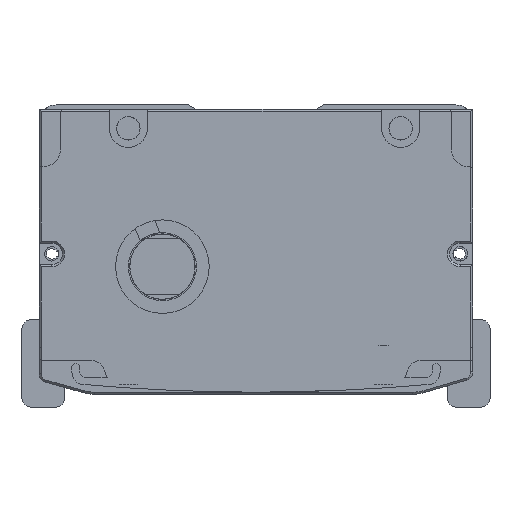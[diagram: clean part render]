
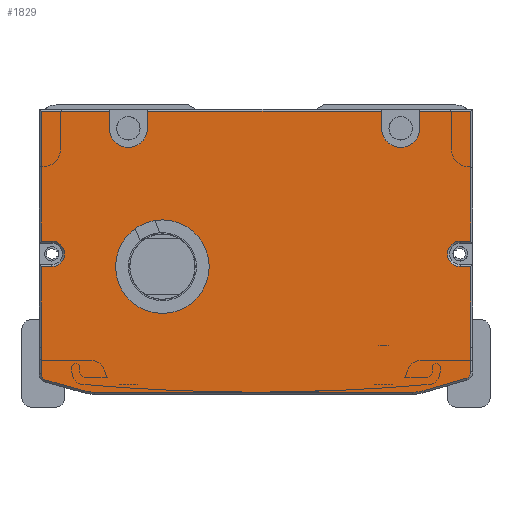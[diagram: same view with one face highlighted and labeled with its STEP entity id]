
A CAD part, front view. The second image highlights one B-rep face of the part: STEP entity #1829.
In plain terms, the highlighted planar face has unit normal (0, -1, 0).
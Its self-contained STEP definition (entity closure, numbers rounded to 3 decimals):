
#1066=FACE_BOUND('',#3755,.T.);
#1067=FACE_BOUND('',#3756,.T.);
#1829=ADVANCED_FACE('',(#1066,#1067),#2572,.F.);
#2572=PLANE('',#15094);
#3755=EDGE_LOOP('',(#6793));
#3756=EDGE_LOOP('',(#6794,#6795,#6796,#6797,#6798,#6799,#6800,#6801,#6802,
#6803,#6804,#6805,#6806,#6807,#6808,#6809,#6810,#6811,#6812,#6813,#6814,
#6815,#6816,#6817,#6818,#6819,#6820,#6821));
#4833=CIRCLE('',#15005,3.);
#4836=CIRCLE('',#15013,3.);
#4839=CIRCLE('',#15025,1.5);
#4841=CIRCLE('',#15029,9.5);
#4843=CIRCLE('',#15033,9.5);
#4845=CIRCLE('',#15037,1.5);
#4850=CIRCLE('',#15052,4.5);
#4854=CIRCLE('',#15058,4.5);
#4855=CIRCLE('',#15067,11.);
#6793=ORIENTED_EDGE('',*,*,#11464,.F.);
#6794=ORIENTED_EDGE('',*,*,#11358,.T.);
#6795=ORIENTED_EDGE('',*,*,#11254,.T.);
#6796=ORIENTED_EDGE('',*,*,#11445,.T.);
#6797=ORIENTED_EDGE('',*,*,#11258,.T.);
#6798=ORIENTED_EDGE('',*,*,#11493,.T.);
#6799=ORIENTED_EDGE('',*,*,#11264,.T.);
#6800=ORIENTED_EDGE('',*,*,#11441,.T.);
#6801=ORIENTED_EDGE('',*,*,#11268,.T.);
#6802=ORIENTED_EDGE('',*,*,#11494,.T.);
#6803=ORIENTED_EDGE('',*,*,#11362,.T.);
#6804=ORIENTED_EDGE('',*,*,#11368,.T.);
#6805=ORIENTED_EDGE('',*,*,#11371,.T.);
#6806=ORIENTED_EDGE('',*,*,#11374,.T.);
#6807=ORIENTED_EDGE('',*,*,#11376,.T.);
#6808=ORIENTED_EDGE('',*,*,#11406,.T.);
#6809=ORIENTED_EDGE('',*,*,#11410,.T.);
#6810=ORIENTED_EDGE('',*,*,#11413,.T.);
#6811=ORIENTED_EDGE('',*,*,#11416,.T.);
#6812=ORIENTED_EDGE('',*,*,#11419,.T.);
#6813=ORIENTED_EDGE('',*,*,#11422,.T.);
#6814=ORIENTED_EDGE('',*,*,#11425,.T.);
#6815=ORIENTED_EDGE('',*,*,#11427,.T.);
#6816=ORIENTED_EDGE('',*,*,#11404,.T.);
#6817=ORIENTED_EDGE('',*,*,#11394,.T.);
#6818=ORIENTED_EDGE('',*,*,#11391,.T.);
#6819=ORIENTED_EDGE('',*,*,#11388,.T.);
#6820=ORIENTED_EDGE('',*,*,#11385,.T.);
#6821=ORIENTED_EDGE('',*,*,#11380,.T.);
#9735=VERTEX_POINT('',#22311);
#9736=VERTEX_POINT('',#22313);
#9739=VERTEX_POINT('',#22320);
#9740=VERTEX_POINT('',#22322);
#9745=VERTEX_POINT('',#22333);
#9746=VERTEX_POINT('',#22335);
#9749=VERTEX_POINT('',#22342);
#9750=VERTEX_POINT('',#22344);
#9808=VERTEX_POINT('',#22530);
#9811=VERTEX_POINT('',#22538);
#9812=VERTEX_POINT('',#22539);
#9817=VERTEX_POINT('',#22550);
#9819=VERTEX_POINT('',#22556);
#9820=VERTEX_POINT('',#22561);
#9822=VERTEX_POINT('',#22567);
#9825=VERTEX_POINT('',#22575);
#9827=VERTEX_POINT('',#22581);
#9829=VERTEX_POINT('',#22587);
#9831=VERTEX_POINT('',#22593);
#9833=VERTEX_POINT('',#22599);
#9840=VERTEX_POINT('',#22623);
#9841=VERTEX_POINT('',#22627);
#9844=VERTEX_POINT('',#22634);
#9846=VERTEX_POINT('',#22640);
#9848=VERTEX_POINT('',#22646);
#9850=VERTEX_POINT('',#22652);
#9852=VERTEX_POINT('',#22658);
#9854=VERTEX_POINT('',#22664);
#9866=VERTEX_POINT('',#22737);
#11254=EDGE_CURVE('',#9736,#9735,#12935,.T.);
#11258=EDGE_CURVE('',#9740,#9739,#12939,.T.);
#11264=EDGE_CURVE('',#9746,#9745,#12945,.T.);
#11268=EDGE_CURVE('',#9750,#9749,#12949,.T.);
#11358=EDGE_CURVE('',#9808,#9736,#13022,.T.);
#11362=EDGE_CURVE('',#9811,#9812,#13026,.T.);
#11368=EDGE_CURVE('',#9812,#9817,#13032,.T.);
#11371=EDGE_CURVE('',#9817,#9819,#4833,.T.);
#11374=EDGE_CURVE('',#9819,#9820,#13036,.T.);
#11376=EDGE_CURVE('',#9820,#9822,#13038,.T.);
#11380=EDGE_CURVE('',#9825,#9808,#13042,.T.);
#11385=EDGE_CURVE('',#9827,#9825,#13047,.T.);
#11388=EDGE_CURVE('',#9829,#9827,#4836,.T.);
#11391=EDGE_CURVE('',#9831,#9829,#13051,.T.);
#11394=EDGE_CURVE('',#9833,#9831,#13054,.T.);
#11404=EDGE_CURVE('',#9840,#9833,#13062,.T.);
#11406=EDGE_CURVE('',#9822,#9841,#13064,.T.);
#11410=EDGE_CURVE('',#9841,#9844,#4839,.T.);
#11413=EDGE_CURVE('',#9844,#9846,#13069,.T.);
#11416=EDGE_CURVE('',#9846,#9848,#4841,.T.);
#11419=EDGE_CURVE('',#9848,#9850,#13073,.T.);
#11422=EDGE_CURVE('',#9850,#9852,#4843,.T.);
#11425=EDGE_CURVE('',#9852,#9854,#13077,.T.);
#11427=EDGE_CURVE('',#9854,#9840,#4845,.T.);
#11441=EDGE_CURVE('',#9745,#9750,#4850,.T.);
#11445=EDGE_CURVE('',#9735,#9740,#4854,.T.);
#11464=EDGE_CURVE('',#9866,#9866,#4855,.T.);
#11493=EDGE_CURVE('',#9739,#9746,#13128,.T.);
#11494=EDGE_CURVE('',#9749,#9811,#13129,.T.);
#12935=LINE('',#22312,#13881);
#12939=LINE('',#22321,#13885);
#12945=LINE('',#22334,#13891);
#12949=LINE('',#22343,#13895);
#13022=LINE('',#22529,#13968);
#13026=LINE('',#22537,#13972);
#13032=LINE('',#22551,#13978);
#13036=LINE('',#22563,#13982);
#13038=LINE('',#22566,#13984);
#13042=LINE('',#22574,#13988);
#13047=LINE('',#22584,#13993);
#13051=LINE('',#22596,#13997);
#13054=LINE('',#22602,#14000);
#13062=LINE('',#22622,#14008);
#13064=LINE('',#22626,#14010);
#13069=LINE('',#22641,#14015);
#13073=LINE('',#22653,#14019);
#13077=LINE('',#22665,#14023);
#13128=LINE('',#22799,#14074);
#13129=LINE('',#22800,#14075);
#13881=VECTOR('',#17317,1.);
#13885=VECTOR('',#17323,1.);
#13891=VECTOR('',#17331,1.);
#13895=VECTOR('',#17337,1.);
#13968=VECTOR('',#17504,1.);
#13972=VECTOR('',#17510,1.);
#13978=VECTOR('',#17518,1.);
#13982=VECTOR('',#17530,1.);
#13984=VECTOR('',#17534,1.);
#13988=VECTOR('',#17540,1.);
#13993=VECTOR('',#17547,1.);
#13997=VECTOR('',#17559,1.);
#14000=VECTOR('',#17564,1.);
#14008=VECTOR('',#17586,1.);
#14010=VECTOR('',#17590,1.);
#14015=VECTOR('',#17603,1.);
#14019=VECTOR('',#17615,1.);
#14023=VECTOR('',#17627,1.);
#14074=VECTOR('',#17794,1.);
#14075=VECTOR('',#17795,1.);
#15005=AXIS2_PLACEMENT_3D('',#22557,#17523,#17524);
#15013=AXIS2_PLACEMENT_3D('',#22590,#17553,#17554);
#15025=AXIS2_PLACEMENT_3D('',#22635,#17596,#17597);
#15029=AXIS2_PLACEMENT_3D('',#22647,#17608,#17609);
#15033=AXIS2_PLACEMENT_3D('',#22659,#17620,#17621);
#15037=AXIS2_PLACEMENT_3D('',#22668,#17631,#17632);
#15052=AXIS2_PLACEMENT_3D('',#22694,#17670,#17671);
#15058=AXIS2_PLACEMENT_3D('',#22702,#17682,#17683);
#15067=AXIS2_PLACEMENT_3D('',#22736,#17718,#17719);
#15094=AXIS2_PLACEMENT_3D('',#22801,#17796,#17797);
#17317=DIRECTION('',(0.,0.,-1.));
#17323=DIRECTION('',(0.,0.,1.));
#17331=DIRECTION('',(0.,0.,-1.));
#17337=DIRECTION('',(0.,0.,1.));
#17504=DIRECTION('',(-1.,0.,0.));
#17510=DIRECTION('',(0.,0.,-1.));
#17518=DIRECTION('',(1.,0.,0.));
#17523=DIRECTION('',(0.,1.,0.));
#17524=DIRECTION('',(0.,0.,1.));
#17530=DIRECTION('',(-1.,0.,0.));
#17534=DIRECTION('',(0.,0.,-1.));
#17540=DIRECTION('',(0.,0.,1.));
#17547=DIRECTION('',(1.,0.,0.));
#17553=DIRECTION('',(0.,1.,0.));
#17554=DIRECTION('',(0.,0.,1.));
#17559=DIRECTION('',(-1.,0.,0.));
#17564=DIRECTION('',(0.,0.,1.));
#17586=DIRECTION('',(0.,0.,1.));
#17590=DIRECTION('',(0.,0.,-1.));
#17596=DIRECTION('',(0.,-1.,0.));
#17597=DIRECTION('',(0.,0.,1.));
#17603=DIRECTION('',(0.963,0.,-0.269));
#17608=DIRECTION('',(0.,-1.,0.));
#17609=DIRECTION('',(0.,0.,1.));
#17615=DIRECTION('',(1.,0.,0.));
#17620=DIRECTION('',(0.,-1.,0.));
#17621=DIRECTION('',(0.,0.,1.));
#17627=DIRECTION('',(0.959,0.,0.282));
#17631=DIRECTION('',(0.,-1.,0.));
#17632=DIRECTION('',(0.,0.,1.));
#17670=DIRECTION('',(0.,1.,0.));
#17671=DIRECTION('',(0.,0.,1.));
#17682=DIRECTION('',(0.,1.,0.));
#17683=DIRECTION('',(0.,0.,1.));
#17718=DIRECTION('',(0.,-1.,0.));
#17719=DIRECTION('',(0.,0.,1.));
#17794=DIRECTION('',(-1.,0.,0.));
#17795=DIRECTION('',(-1.,0.,0.));
#17796=DIRECTION('',(0.,1.,0.));
#17797=DIRECTION('',(1.,0.,0.));
#22311=CARTESIAN_POINT('',(35.308,-907.5,-5.5));
#22312=CARTESIAN_POINT('',(35.308,-907.5,-1.));
#22313=CARTESIAN_POINT('',(35.308,-907.5,-1.5));
#22320=CARTESIAN_POINT('',(26.308,-907.5,-1.5));
#22321=CARTESIAN_POINT('',(26.308,-907.5,-1.));
#22322=CARTESIAN_POINT('',(26.308,-907.5,-5.5));
#22333=CARTESIAN_POINT('',(-28.692,-907.5,-5.5));
#22334=CARTESIAN_POINT('',(-28.692,-907.5,-1.));
#22335=CARTESIAN_POINT('',(-28.692,-907.5,-1.5));
#22342=CARTESIAN_POINT('',(-37.692,-907.5,-1.5));
#22343=CARTESIAN_POINT('',(-37.692,-907.5,-1.));
#22344=CARTESIAN_POINT('',(-37.692,-907.5,-5.5));
#22529=CARTESIAN_POINT('',(-53.692,-907.5,-1.5));
#22530=CARTESIAN_POINT('',(47.308,-907.5,-1.5));
#22537=CARTESIAN_POINT('',(-53.692,-907.5,-32.5));
#22538=CARTESIAN_POINT('',(-53.692,-907.5,-1.5));
#22539=CARTESIAN_POINT('',(-53.692,-907.5,-32.));
#22550=CARTESIAN_POINT('',(-51.192,-907.5,-32.));
#22551=CARTESIAN_POINT('',(-3.192,-907.5,-32.));
#22556=CARTESIAN_POINT('',(-51.192,-907.5,-38.));
#22557=CARTESIAN_POINT('',(-51.192,-907.5,-35.));
#22561=CARTESIAN_POINT('',(-53.692,-907.5,-38.));
#22563=CARTESIAN_POINT('',(-3.192,-907.5,-38.));
#22566=CARTESIAN_POINT('',(-53.692,-907.5,-57.));
#22567=CARTESIAN_POINT('',(-53.692,-907.5,-57.));
#22574=CARTESIAN_POINT('',(47.308,-907.5,-1.5));
#22575=CARTESIAN_POINT('',(47.308,-907.5,-32.));
#22581=CARTESIAN_POINT('',(44.808,-907.5,-32.));
#22584=CARTESIAN_POINT('',(-3.192,-907.5,-32.));
#22587=CARTESIAN_POINT('',(44.808,-907.5,-38.));
#22590=CARTESIAN_POINT('',(44.808,-907.5,-35.));
#22593=CARTESIAN_POINT('',(47.308,-907.5,-38.));
#22596=CARTESIAN_POINT('',(-3.192,-907.5,-38.));
#22599=CARTESIAN_POINT('',(47.308,-907.5,-57.));
#22602=CARTESIAN_POINT('',(47.308,-907.5,-37.5));
#22622=CARTESIAN_POINT('',(47.308,-907.5,-37.5));
#22623=CARTESIAN_POINT('',(47.308,-907.5,-62.758));
#22626=CARTESIAN_POINT('',(-53.692,-907.5,-59.712));
#22627=CARTESIAN_POINT('',(-53.692,-907.5,-63.212));
#22634=CARTESIAN_POINT('',(-52.596,-907.5,-64.657));
#22635=CARTESIAN_POINT('',(-52.192,-907.5,-63.212));
#22640=CARTESIAN_POINT('',(-43.674,-907.5,-67.15));
#22641=CARTESIAN_POINT('',(-43.674,-907.5,-67.15));
#22646=CARTESIAN_POINT('',(-41.118,-907.5,-67.5));
#22647=CARTESIAN_POINT('',(-41.118,-907.5,-58.));
#22652=CARTESIAN_POINT('',(33.631,-907.5,-67.5));
#22653=CARTESIAN_POINT('',(33.631,-907.5,-67.5));
#22658=CARTESIAN_POINT('',(36.312,-907.5,-67.114));
#22659=CARTESIAN_POINT('',(33.631,-907.5,-58.));
#22664=CARTESIAN_POINT('',(46.231,-907.5,-64.197));
#22665=CARTESIAN_POINT('',(46.231,-907.5,-64.197));
#22668=CARTESIAN_POINT('',(45.808,-907.5,-62.758));
#22694=CARTESIAN_POINT('',(-33.192,-907.5,-5.5));
#22702=CARTESIAN_POINT('',(30.808,-907.5,-5.5));
#22736=CARTESIAN_POINT('',(-25.192,-907.5,-38.));
#22737=CARTESIAN_POINT('',(-25.192,-907.5,-27.));
#22799=CARTESIAN_POINT('',(-53.692,-907.5,-1.5));
#22800=CARTESIAN_POINT('',(-53.692,-907.5,-1.5));
#22801=CARTESIAN_POINT('',(-3.192,-907.5,-1.));
